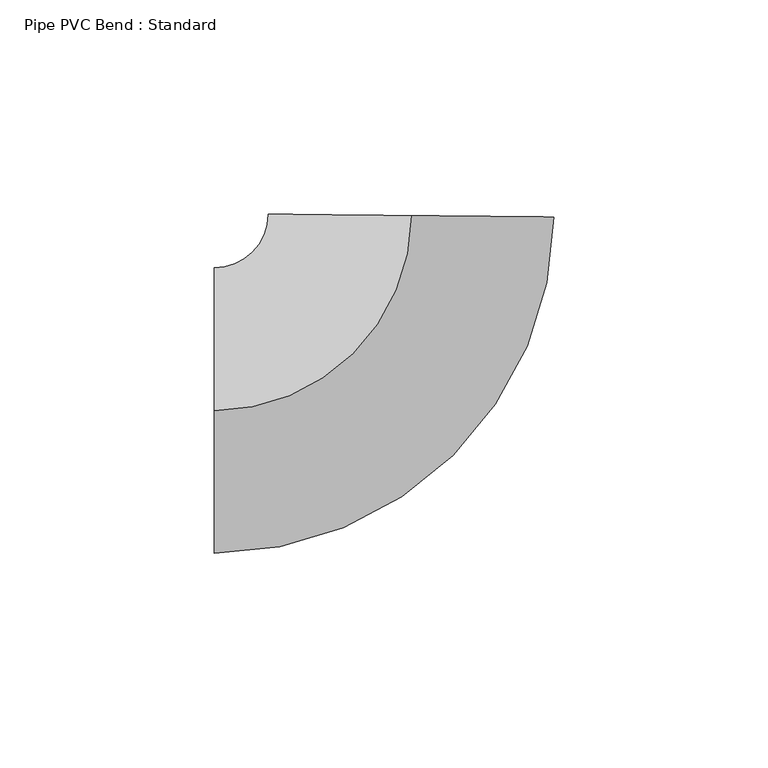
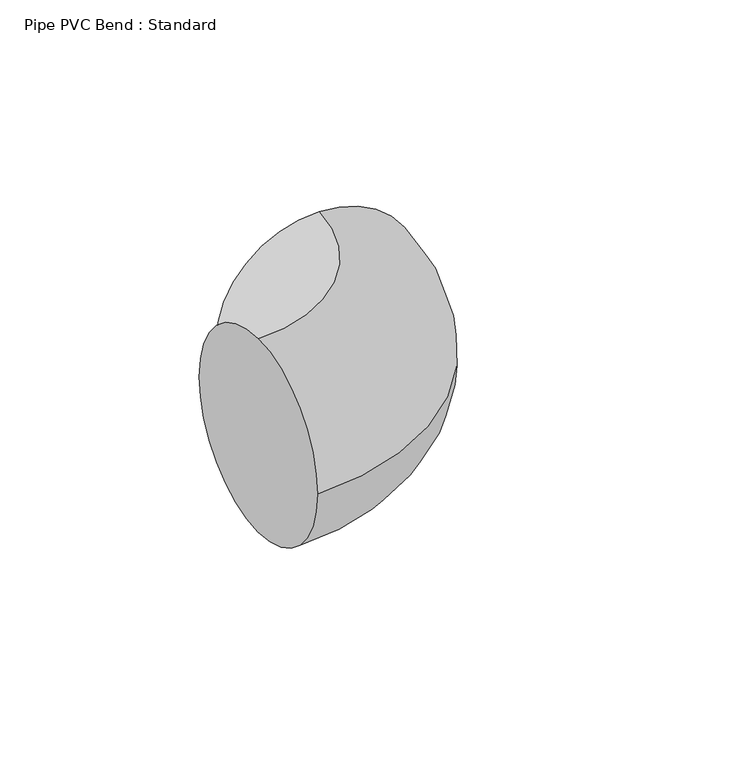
"""IFC4 building model written with IfcOpenShell, lengths in millimetres: pipe fitting geometry, Pipe PVC Bend : Standard."""

from ifc_helpers import new_model, si_unit, point, frame, origin, place, context, project, spatial, circle_curve, ellipse_curve, trimmed, source, transform, mapped, element, save
from ifc_brep_helpers import plane_surface, revolved_surface, advanced_brep


def pipe_pvc_bend_standard_adf20049(model_context):
    return source(origin(), model_context, "Body", "AdvancedBrep", [
        advanced_brep(
        [(-45.559878, 0.0, 33.3375), (-45.559878, 33.3375, 0.0), (-45.559878, 0.0, -33.3375), (-45.559878, -33.3375, 0.0), (0.4751186, 45.5574006, 33.3375), (33.8108058, 45.2097424, 0.0), (0.4751186, 45.5574006, -33.3375), (-32.8605686, 45.9050588, 0.0)],
        [
            (0, 1, circle_curve(frame((-45.559878, 0.0, 0.0), z_axis=(-1.0, 0.0, 0.0), x_axis=(0.0, 1.0, 0.0)), 33.3375)),
            (1, 2, circle_curve(frame((-45.559878, 0.0, 0.0), z_axis=(-1.0, 0.0, 0.0), x_axis=(0.0, 1.0, 0.0)), 33.3375)),
            (2, 3, circle_curve(frame((-45.559878, 0.0, 0.0), z_axis=(-1.0, 0.0, 0.0), x_axis=(0.0, 1.0, 0.0)), 33.3375)),
            (3, 0, circle_curve(frame((-45.559878, 0.0, 0.0), z_axis=(-1.0, 0.0, 0.0), x_axis=(0.0, 1.0, 0.0)), 33.3375)),
            (4, 5, circle_curve(frame((0.4751186, 45.5574006, 0.0), z_axis=(0.010428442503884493, 0.9999456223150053, 0.0), x_axis=(-0.9999456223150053, 0.010428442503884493, 0.0)), 33.3375)),
            (5, 6, circle_curve(frame((0.4751186, 45.5574006, 0.0), z_axis=(0.010428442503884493, 0.9999456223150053, 0.0), x_axis=(-0.9999456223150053, 0.010428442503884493, 0.0)), 33.3375)),
            (6, 7, circle_curve(frame((0.4751186, 45.5574006, 0.0), z_axis=(0.010428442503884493, 0.9999456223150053, 0.0), x_axis=(-0.9999456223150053, 0.010428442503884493, 0.0)), 33.3375)),
            (7, 4, circle_curve(frame((0.4751186, 45.5574006, 0.0), z_axis=(0.010428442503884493, 0.9999456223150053, 0.0), x_axis=(-0.9999456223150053, 0.010428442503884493, 0.0)), 33.3375)),
            (7, 1, circle_curve(frame((-45.559878, 46.0375, 0.0), z_axis=(0.0, 0.0, -1.0), x_axis=(0.0, -1.0, 0.0)), 12.7)),
            (0, 4, circle_curve(frame((-45.559878, 46.0375, 33.3375), z_axis=(0.0, 0.0, 1.0), x_axis=(0.0, -1.0, 0.0)), 46.0375)),
            (6, 2, circle_curve(frame((-45.559878, 46.0375, -33.3375), z_axis=(0.0, 0.0, -1.0), x_axis=(0.0, -1.0, 0.0)), 46.0375)),
            (5, 3, circle_curve(frame((-45.559878, 46.0375, 0.0), z_axis=(0.0, 0.0, -1.0), x_axis=(0.0, -1.0, 0.0)), 79.375)),
        ],
        [
            plane_surface(frame((-45.559878, 0.0, 0.0), z_axis=(-1.0, 0.0, 0.0), x_axis=(0.0, 0.0, 1.0))),
            plane_surface(frame((0.4751186, 45.5574006, 0.0), z_axis=(0.010428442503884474, 0.9999456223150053, 0.0), x_axis=(0.0, 0.0, 1.0))),
            revolved_surface(trimmed(ellipse_curve(frame((-45.559878, 0.0, 0.0), z_axis=(-1.0, 0.0, 0.0), x_axis=(0.0, 1.0, 0.0)), 33.3375, 33.3375), [point((-45.559878, 0.0, 33.3375))], [point((-45.559878, 33.3375, 0.0))], True, "CARTESIAN"), (-45.559878, 46.0375, 0.0), (0.0, 0.0, 1.0)),
            revolved_surface(trimmed(ellipse_curve(frame((-45.559878, 0.0, 0.0), z_axis=(-1.0, 0.0, 0.0), x_axis=(0.0, 1.0, 0.0)), 33.3375, 33.3375), [point((-45.559878, 33.3375, 0.0))], [point((-45.559878, 0.0, -33.3375))], True, "CARTESIAN"), (-45.559878, 46.0375, 0.0), (0.0, 0.0, 1.0)),
            revolved_surface(trimmed(ellipse_curve(frame((-45.559878, 0.0, 0.0), z_axis=(-1.0, 0.0, 0.0), x_axis=(0.0, 1.0, 0.0)), 33.3375, 33.3375), [point((-45.559878, 0.0, -33.3375))], [point((-45.559878, -33.3375, 0.0))], True, "CARTESIAN"), (-45.559878, 46.0375, 0.0), (0.0, 0.0, 1.0)),
            revolved_surface(trimmed(ellipse_curve(frame((-45.559878, 0.0, 0.0), z_axis=(-1.0, 0.0, 0.0), x_axis=(0.0, 1.0, 0.0)), 33.3375, 33.3375), [point((-45.559878, -33.3375, 0.0))], [point((-45.559878, 0.0, 33.3375))], True, "CARTESIAN"), (-45.559878, 46.0375, 0.0), (0.0, 0.0, 1.0)),
        ],
        [
            (0, [[1, 2, 3, 4]]),
            (1, [[5, 6, 7, 8]]),
            (2, [[9, -1, 10, -8]]),
            (3, [[11, -2, -9, -7]]),
            (4, [[12, -3, -11, -6]]),
            (5, [[-10, -4, -12, -5]]),
        ],
    ),
        advanced_brep(
        [(-45.559878, 0.0, 33.3375), (-45.559878, 33.3375, 0.0), (-45.559878, 0.0, -33.3375), (-45.559878, -33.3375, 0.0), (0.4751186, 45.5574006, 33.3375), (33.8108058, 45.2097424, 0.0), (0.4751186, 45.5574006, -33.3375), (-32.8605686, 45.9050588, 0.0)],
        [
            (0, 1, circle_curve(frame((-45.559878, 0.0, 0.0), z_axis=(-1.0, 0.0, 0.0), x_axis=(0.0, 1.0, 0.0)), 33.3375)),
            (1, 2, circle_curve(frame((-45.559878, 0.0, 0.0), z_axis=(-1.0, 0.0, 0.0), x_axis=(0.0, 1.0, 0.0)), 33.3375)),
            (2, 3, circle_curve(frame((-45.559878, 0.0, 0.0), z_axis=(-1.0, 0.0, 0.0), x_axis=(0.0, 1.0, 0.0)), 33.3375)),
            (3, 0, circle_curve(frame((-45.559878, 0.0, 0.0), z_axis=(-1.0, 0.0, 0.0), x_axis=(0.0, 1.0, 0.0)), 33.3375)),
            (4, 5, circle_curve(frame((0.4751186, 45.5574006, 0.0), z_axis=(0.010428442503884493, 0.9999456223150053, 0.0), x_axis=(-0.9999456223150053, 0.010428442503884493, 0.0)), 33.3375)),
            (5, 6, circle_curve(frame((0.4751186, 45.5574006, 0.0), z_axis=(0.010428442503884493, 0.9999456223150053, 0.0), x_axis=(-0.9999456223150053, 0.010428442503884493, 0.0)), 33.3375)),
            (6, 7, circle_curve(frame((0.4751186, 45.5574006, 0.0), z_axis=(0.010428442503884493, 0.9999456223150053, 0.0), x_axis=(-0.9999456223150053, 0.010428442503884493, 0.0)), 33.3375)),
            (7, 4, circle_curve(frame((0.4751186, 45.5574006, 0.0), z_axis=(0.010428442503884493, 0.9999456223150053, 0.0), x_axis=(-0.9999456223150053, 0.010428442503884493, 0.0)), 33.3375)),
            (7, 1, circle_curve(frame((-45.559878, 46.0375, 0.0), z_axis=(0.0, 0.0, -1.0), x_axis=(0.0, -1.0, 0.0)), 12.7)),
            (0, 4, circle_curve(frame((-45.559878, 46.0375, 33.3375), z_axis=(0.0, 0.0, 1.0), x_axis=(0.0, -1.0, 0.0)), 46.0375)),
            (6, 2, circle_curve(frame((-45.559878, 46.0375, -33.3375), z_axis=(0.0, 0.0, -1.0), x_axis=(0.0, -1.0, 0.0)), 46.0375)),
            (5, 3, circle_curve(frame((-45.559878, 46.0375, 0.0), z_axis=(0.0, 0.0, -1.0), x_axis=(0.0, -1.0, 0.0)), 79.375)),
        ],
        [
            plane_surface(frame((-45.559878, 0.0, 0.0), z_axis=(-1.0, 0.0, 0.0), x_axis=(0.0, 0.0, 1.0))),
            plane_surface(frame((0.4751186, 45.5574006, 0.0), z_axis=(0.010428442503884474, 0.9999456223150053, 0.0), x_axis=(0.0, 0.0, 1.0))),
            revolved_surface(trimmed(ellipse_curve(frame((-45.559878, 0.0, 0.0), z_axis=(-1.0, 0.0, 0.0), x_axis=(0.0, 1.0, 0.0)), 33.3375, 33.3375), [point((-45.559878, 0.0, 33.3375))], [point((-45.559878, 33.3375, 0.0))], True, "CARTESIAN"), (-45.559878, 46.0375, 0.0), (0.0, 0.0, 1.0)),
            revolved_surface(trimmed(ellipse_curve(frame((-45.559878, 0.0, 0.0), z_axis=(-1.0, 0.0, 0.0), x_axis=(0.0, 1.0, 0.0)), 33.3375, 33.3375), [point((-45.559878, 33.3375, 0.0))], [point((-45.559878, 0.0, -33.3375))], True, "CARTESIAN"), (-45.559878, 46.0375, 0.0), (0.0, 0.0, 1.0)),
            revolved_surface(trimmed(ellipse_curve(frame((-45.559878, 0.0, 0.0), z_axis=(-1.0, 0.0, 0.0), x_axis=(0.0, 1.0, 0.0)), 33.3375, 33.3375), [point((-45.559878, 0.0, -33.3375))], [point((-45.559878, -33.3375, 0.0))], True, "CARTESIAN"), (-45.559878, 46.0375, 0.0), (0.0, 0.0, 1.0)),
            revolved_surface(trimmed(ellipse_curve(frame((-45.559878, 0.0, 0.0), z_axis=(-1.0, 0.0, 0.0), x_axis=(0.0, 1.0, 0.0)), 33.3375, 33.3375), [point((-45.559878, -33.3375, 0.0))], [point((-45.559878, 0.0, 33.3375))], True, "CARTESIAN"), (-45.559878, 46.0375, 0.0), (0.0, 0.0, 1.0)),
        ],
        [
            (0, [[1, 2, 3, 4]]),
            (1, [[5, 6, 7, 8]]),
            (2, [[9, -1, 10, -8]]),
            (3, [[11, -2, -9, -7]]),
            (4, [[12, -3, -11, -6]]),
            (5, [[-10, -4, -12, -5]]),
        ],
    ),
    ])


if __name__ == "__main__":
    model = new_model("IFC4")
    model_context = context("Model", 3, world=origin())
    ifc_project = project(units=[si_unit("LENGTHUNIT", "METRE", prefix="MILLI")], contexts=[model_context])
    site = spatial("IfcSite", under=ifc_project)
    building = spatial("IfcBuilding", under=site)
    placement = place(None, origin())
    pipe_pvc_bend_standard_shape = pipe_pvc_bend_standard_adf20049(model_context)
    element("IfcPipeFitting", 1, ObjectType="Pipe PVC Bend : Standard", at=placement, inside=building, context=model_context, shape_type="MappedRepresentation", body=[
        mapped(pipe_pvc_bend_standard_shape, transform((0.0, 0.0, 0.0), x_axis=(1.0, 0.0, 0.0), y_axis=(0.0, 1.0, 0.0), z_axis=(0.0, 0.0, 1.0))),
    ])
    save(model, "model.ifc")
